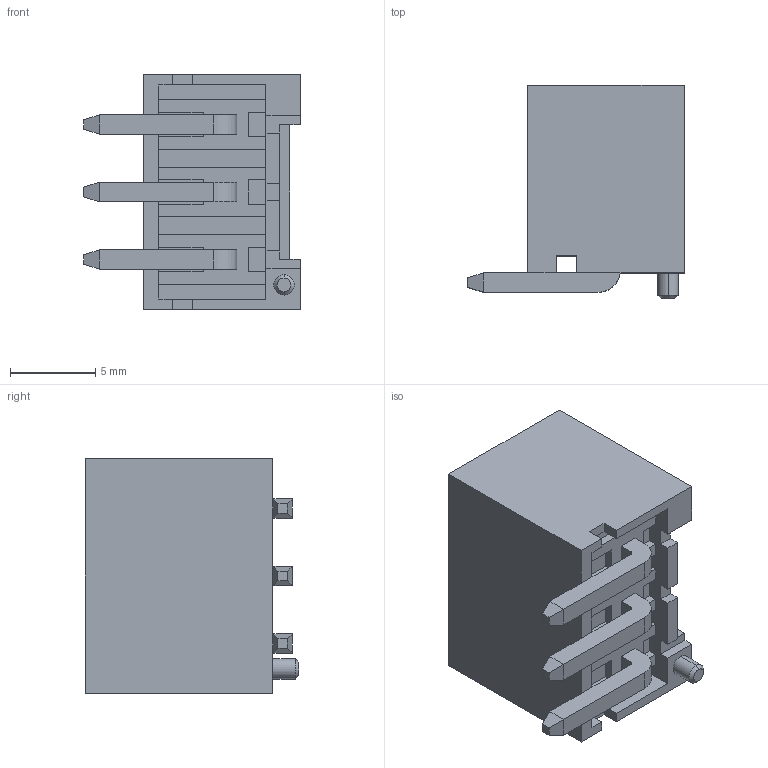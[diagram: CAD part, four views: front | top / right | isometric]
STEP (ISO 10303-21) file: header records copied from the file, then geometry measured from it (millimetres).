
FILE_DESCRIPTION (( 'STEP AP214' ), '1' );
FILE_NAME ('HC-VHH-3AW-05 (3.96 单排 平弯针 带柱 座高11mm-HCTL).STEP', '2025-05-16T02:19:51', ( '' ), ( '' ), 'SwSTEP 2.0', 'SolidWorks 2022', '' );
FILE_SCHEMA (( 'AUTOMOTIVE_DESIGN' ));
Length unit declared in the file: millimetre
Products named in the file (1): HC-VHH-3AW-05 (3.96 单排 平弯针 带柱 座高11mm-HCTL)
Bounding box: 12.7 x 12.5 x 13.76 mm (x, y, z)
Volume: 650.7 mm3; surface area: 1362.8 mm2
Topology: 1 solids, 1 shells, 167 faces, 450 edges, 286 vertices
Faces by surface type: plane 157, cylinder 8, cone 2
Entity records: 5132 total; most frequent: CARTESIAN_POINT 904, ORIENTED_EDGE 900, DIRECTION 804, EDGE_CURVE 450, VECTOR 432, LINE 432, VERTEX_POINT 286, AXIS2_PLACEMENT_3D 186
